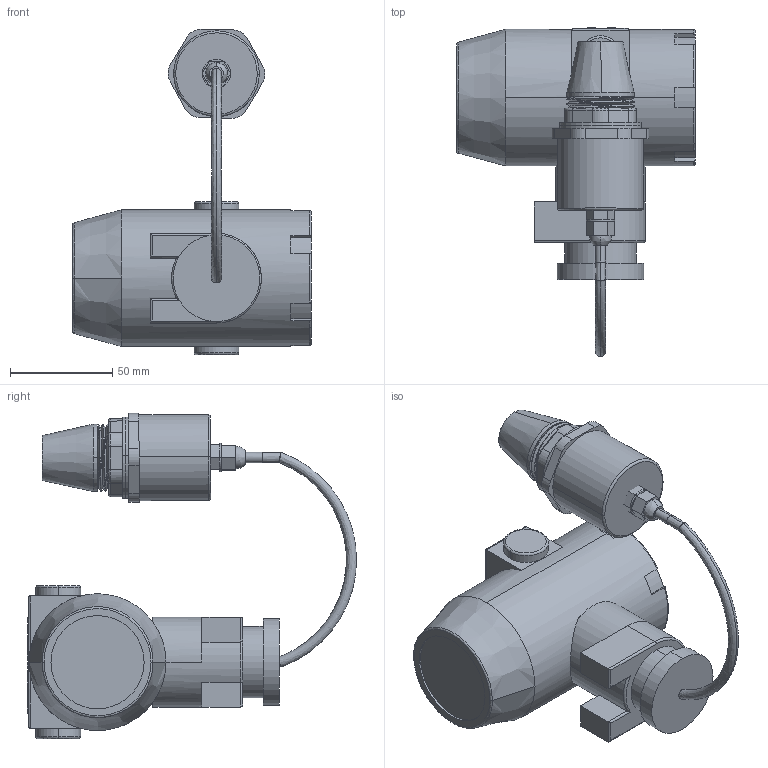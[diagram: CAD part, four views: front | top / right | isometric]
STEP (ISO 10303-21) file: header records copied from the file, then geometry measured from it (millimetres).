
FILE_DESCRIPTION((''),'2;1');
FILE_NAME('ASM0013_ASM','2025-12-29T11:32:07',('28740194'),(''),'CREO PARAMETRIC BY PTC INC, 2024063','CREO PARAMETRIC BY PTC INC, 2024063','');
FILE_SCHEMA(('CONFIG_CONTROL_DESIGN'));
Length unit declared in the file: millimetre
Products named in the file (7): 0003; KUS60000; 00; 000; KUS600ZZZ00_ASM; ASM0013_ASM
Assembly tree (7 placements, depth 3):
  ASM0013_ASM
    0003
    KUS600ZZZ00_ASM
      KUS60000
      00  x2
      00
      000
Bounding box: 117 x 161.34 x 159.48 mm (x, y, z)
Volume: 586441.7 mm3; surface area: 66357.2 mm2
Topology: 6 solids, 6 shells, 865 faces, 2379 edges, 1563 vertices
Faces by surface type: plane 742, cylinder 78, bspline 21, torus 20, cone 4
Entity records: 30594 total; most frequent: CARTESIAN_POINT 8602, ORIENTED_EDGE 4734, DIRECTION 4178, EDGE_CURVE 2367, VECTOR 2088, LINE 2088, VERTEX_POINT 1555, AXIS2_PLACEMENT_3D 1045
